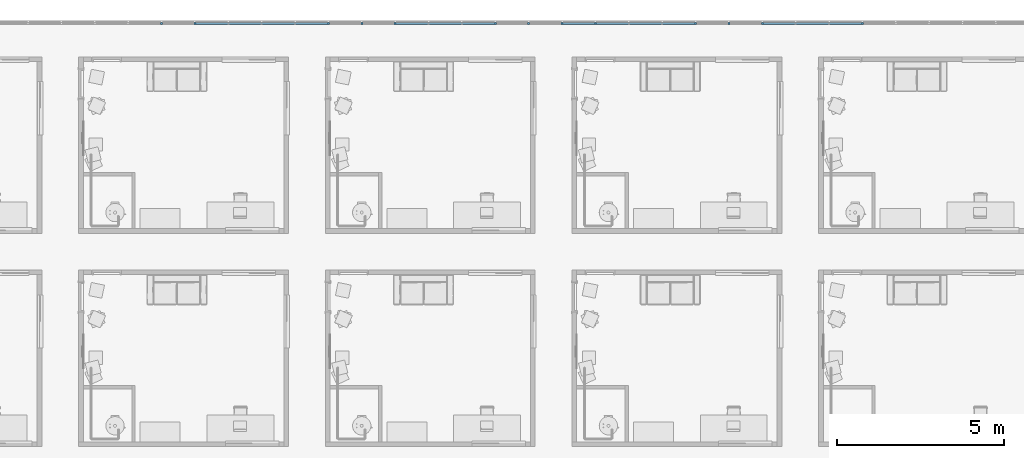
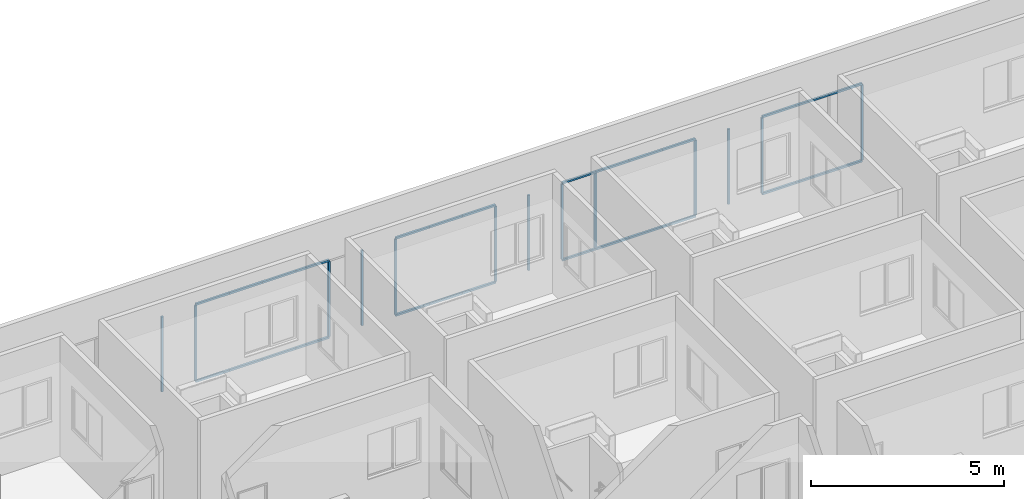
# One storey, part 3 of 72: 41 members, 1 element without a shape of its own.
"""IFC4 building model written with IfcOpenShell, lengths in centimetres."""

import ifcopenshell
import ifcopenshell.guid

model = None  # the IFC model being written
_history = None  # IfcOwnerHistory: only IFC2X3 demands one
_inside = {}  # id of a spatial element -> (the spatial element, [elements in it])
_under = {}  # id of a project, library or spatial element -> (it, [spatial elements below it])
_declared = {}  # id of a project -> (the project, [libraries it declares])
_typed = {}  # id of a type object -> (the type object, [elements of that type])
_made_of = {}  # id of a material, layer set ... -> (it, [elements and type objects made of it])


def new_model(schema):
    """Start an empty IFC model of exactly this schema.

    Asked for "IFC4X3", IfcOpenShell would pick the latest addendum, in which some entities
    have other attributes; the version numbers below select the first issue.
    IFC2X3 requires an IfcOwnerHistory on every rooted entity: one is made here for all.
    """
    global model, _history
    if schema == "IFC4X3":
        model = ifcopenshell.file(schema_version=(4, 3, 0, 0))
    else:
        model = ifcopenshell.file(schema=schema)
    _inside.clear()
    _under.clear()
    _declared.clear()
    _typed.clear()
    _made_of.clear()
    _history = None
    if model.schema == "IFC2X3":
        org = make("IfcOrganization", Name="unknown")
        user = make(
            "IfcPersonAndOrganization",
            ThePerson=make("IfcPerson", FamilyName="unknown"),
            TheOrganization=org,
        )
        app = make(
            "IfcApplication",
            ApplicationDeveloper=org,
            Version="unknown",
            ApplicationFullName="unknown",
            ApplicationIdentifier="unknown",
        )
        _history = make(
            "IfcOwnerHistory",
            OwningUser=user,
            OwningApplication=app,
            ChangeAction="ADDED",
            CreationDate=0,
        )
    return model


def make(cls, **values):
    """One entity of the class cls with the attributes given. An attribute that is None is left unset."""
    return model.create_entity(
        cls, **{name: value for name, value in values.items() if value is not None}
    )


def entity(cls, *values):
    """Any entity or typed value of the class cls, its attributes in the order of the schema. None: left unset."""
    e = model.create_entity(cls)
    for i, value in enumerate(values):
        if value is not None:
            e[i] = value
    return e


def rooted(cls, **values):
    """An entity with a GlobalId (a new one), such as an element, a storey or a relation."""
    return make(cls, GlobalId=ifcopenshell.guid.new(), OwnerHistory=_history, **values)


def si_unit(unit_type, name, prefix=None):
    """IfcSIUnit, for example si_unit("LENGTHUNIT", "METRE", prefix="MILLI")."""
    return make("IfcSIUnit", UnitType=unit_type, Prefix=prefix, Name=name)


def converted_unit(unit_type, name, factor, base, dimensions=None, offset=None):
    """IfcConversionBasedUnit, such as the inch: factor (a typed value) times the base unit."""
    return make(
        "IfcConversionBasedUnit"
        if offset is None
        else "IfcConversionBasedUnitWithOffset",
        ConversionOffset=offset,
        Dimensions=None
        if dimensions is None
        else entity("IfcDimensionalExponents", *dimensions),
        UnitType=unit_type,
        Name=name,
        ConversionFactor=make(
            "IfcMeasureWithUnit", ValueComponent=factor, UnitComponent=base
        ),
    )


def derived_unit(unit_type, elements):
    """IfcDerivedUnit: a product of units, each with its exponent."""
    return make(
        "IfcDerivedUnit",
        Elements=[
            make("IfcDerivedUnitElement", Unit=unit, Exponent=power)
            for unit, power in elements
        ],
        UnitType=unit_type,
    )


def assignment(units):
    """IfcUnitAssignment: the units of a project."""
    return None if units is None else make("IfcUnitAssignment", Units=units)


def point(xyz):
    """IfcCartesianPoint."""
    return None if xyz is None else make("IfcCartesianPoint", Coordinates=xyz)


def direction(xyz):
    """IfcDirection."""
    return None if xyz is None else make("IfcDirection", DirectionRatios=xyz)


def frame(location, z_axis=None, x_axis=None):
    """IfcAxis2Placement3D, a coordinate frame: its origin and axes. An axis left out is left unset."""
    return make(
        "IfcAxis2Placement3D",
        Location=point(location),
        Axis=direction(z_axis),
        RefDirection=direction(x_axis),
    )


def origin():
    """The frame at (0, 0, 0) with its axes left unset."""
    return frame((0.0, 0.0, 0.0))


def place(relative_to, where):
    """IfcLocalPlacement: puts the frame where relative to a parent placement (None: the world)."""
    return make(
        "IfcLocalPlacement", PlacementRelTo=relative_to, RelativePlacement=where
    )


def context(
    kind, dimensions, precision=None, world=None, true_north=None, identifier=None
):
    """IfcGeometricRepresentationContext, for example the 3D "Model" context."""
    return make(
        "IfcGeometricRepresentationContext",
        ContextIdentifier=identifier,
        ContextType=kind,
        CoordinateSpaceDimension=dimensions,
        Precision=precision,
        WorldCoordinateSystem=world,
        TrueNorth=true_north,
    )


def subcontext(parent, identifier, kind, view, scale=None):
    """IfcGeometricRepresentationSubContext, for example "Body" below "Model"."""
    return make(
        "IfcGeometricRepresentationSubContext",
        ContextIdentifier=identifier,
        ContextType=kind,
        ParentContext=parent,
        TargetScale=scale,
        TargetView=view,
    )


def project(units=None, contexts=None):
    """IfcProject with its units and contexts."""
    return rooted(
        "IfcProject",
        Name="project",
        RepresentationContexts=contexts,
        UnitsInContext=assignment(units),
    )


def spatial(cls, under=None, at=None, **own):
    """A site, building, storey or space (cls), placed at a placement, below another one or the project."""
    s = rooted(cls, ObjectPlacement=at, **own)
    if under is not None:
        _under.setdefault(under.id(), (under, []))[1].append(s)
    return s


def point_list(points):
    """IfcCartesianPointList2D or 3D."""
    cls = (
        "IfcCartesianPointList2D" if len(points[0]) == 2 else "IfcCartesianPointList3D"
    )
    return make(cls, CoordList=points)


def indexed_curve(points, segments=None, self_intersect=None):
    """IfcIndexedPolyCurve: lines and arcs through numbered points (the first is 1)."""
    return make(
        "IfcIndexedPolyCurve",
        Points=point_list(points),
        Segments=segments,
        SelfIntersect=self_intersect,
    )


def outline(outer, holes=None, kind="AREA"):
    """IfcArbitraryClosedProfileDef: a profile drawn as a closed curve; with holes, ...WithVoids."""
    if holes is None:
        return make("IfcArbitraryClosedProfileDef", ProfileType=kind, OuterCurve=outer)
    return make(
        "IfcArbitraryProfileDefWithVoids",
        ProfileType=kind,
        OuterCurve=outer,
        InnerCurves=holes,
    )


def extrude(swept, where, along, depth):
    """IfcExtrudedAreaSolid: the profile swept, set in the frame where, extruded along a direction by depth."""
    return make(
        "IfcExtrudedAreaSolid",
        SweptArea=swept,
        Position=where,
        ExtrudedDirection=direction(along),
        Depth=depth,
    )


def shape(context_of_items, identifier, shape_type, items):
    """IfcShapeRepresentation: the items that make up one representation, for example the "Body"."""
    return make(
        "IfcShapeRepresentation",
        ContextOfItems=context_of_items,
        RepresentationIdentifier=identifier,
        RepresentationType=shape_type,
        Items=items,
    )


def source(mapping_origin, context_of_items, identifier, shape_type, items):
    """IfcRepresentationMap: a shape defined once, which mapped items show again and again."""
    return make(
        "IfcRepresentationMap",
        MappingOrigin=mapping_origin,
        MappedRepresentation=shape(context_of_items, identifier, shape_type, items),
    )


def transform(
    local_origin,
    x_axis=None,
    y_axis=None,
    z_axis=None,
    scale=None,
    scale2=None,
    scale3=None,
    uniform=True,
):
    """IfcCartesianTransformationOperator3D, or its non-uniform kind. x_axis, y_axis, z_axis: its Axis1, 2, 3."""
    if uniform:
        return make(
            "IfcCartesianTransformationOperator3D",
            Axis1=direction(x_axis),
            Axis2=direction(y_axis),
            LocalOrigin=point(local_origin),
            Scale=scale,
            Axis3=direction(z_axis),
        )
    return make(
        "IfcCartesianTransformationOperator3DnonUniform",
        Axis1=direction(x_axis),
        Axis2=direction(y_axis),
        LocalOrigin=point(local_origin),
        Scale=scale,
        Axis3=direction(z_axis),
        Scale2=scale2,
        Scale3=scale3,
    )


def mapped(mapping_source, mapping_target):
    """IfcMappedItem: shows the shape of a source again, moved by a transform."""
    return make(
        "IfcMappedItem", MappingSource=mapping_source, MappingTarget=mapping_target
    )


def material(Name=None, Category=None):
    """IfcMaterial."""
    return make("IfcMaterial", Name=Name, Category=Category)


def made_of(thing, what):
    """Note that an element or type object is made of a material, layer set ...; save() writes the relation."""
    if what is not None:
        _made_of.setdefault(what.id(), (what, []))[1].append(thing)
    return thing


def type_object(cls, material=None, **own):
    """A type object (cls), such as IfcWallType, which elements share."""
    return made_of(rooted(cls, **own), material)


def type_shapes(of_type, sources):
    """Give a type object the sources (RepresentationMaps) that its elements show as mapped items."""
    of_type.RepresentationMaps = sources


def element(
    cls,
    number,
    at=None,
    inside=None,
    cuts=None,
    type_object=None,
    material=None,
    context=None,
    identifier="Body",
    shape_type=None,
    held_by="IfcProductDefinitionShape",
    body=None,
    shapes=None,
    **own,
):
    """One element of the class cls, such as IfcWall. Its Tag is "e" and its number.

    at: its placement. inside: the storey or other place that contains it. cuts: it is an
    opening in that element (IfcRelVoidsElement). A single representation is given by context,
    identifier, shape_type and body (its items); several are given by shapes. held_by: the class
    of the entity that holds the representations. save() writes the other relations.
    """
    e = rooted(cls, Tag="e%d" % number, ObjectPlacement=at, **own)
    if body is not None:
        shapes = [shape(context, identifier, shape_type, body)]
    if shapes is not None:
        e.Representation = make(held_by, Representations=shapes)
    if inside is not None:
        _inside.setdefault(inside.id(), (inside, []))[1].append(e)
    if cuts is not None:
        rooted(
            "IfcRelVoidsElement", RelatingBuildingElement=cuts, RelatedOpeningElement=e
        )
    if type_object is not None:
        _typed.setdefault(type_object.id(), (type_object, []))[1].append(e)
    return made_of(e, material)


def aggregate(whole, parts):
    """IfcRelAggregates: a whole, such as a stair, and the parts it consists of."""
    return rooted("IfcRelAggregates", RelatingObject=whole, RelatedObjects=parts)


def save(model, path):
    """Write the relations noted so far, then the file.

    IfcRelAggregates (storeys below a building ...), IfcRelContainedInSpatialStructure (elements
    in a storey), IfcRelDefinesByType, IfcRelAssociatesMaterial and IfcRelDeclares: one each for
    every whole, place, type object, material and project.
    """
    for whole, parts in _under.values():
        aggregate(whole, parts)
    for where, things in _inside.values():
        rooted(
            "IfcRelContainedInSpatialStructure",
            RelatedElements=things,
            RelatingStructure=where,
        )
    for kind, things in _typed.values():
        rooted("IfcRelDefinesByType", RelatedObjects=things, RelatingType=kind)
    for what, things in _made_of.values():
        rooted("IfcRelAssociatesMaterial", RelatedObjects=things, RelatingMaterial=what)
    for by, libraries in _declared.values():
        rooted("IfcRelDeclares", RelatingContext=by, RelatedDefinitions=libraries)
    model.write(path)


model = new_model("IFC4")

# Units and contexts
model_context = context("Model", 3, precision=0.001, world=origin(), true_north=direction((6.123233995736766e-17, 1.0)))
body_context = subcontext(model_context, "Body", "Model", "MODEL_VIEW")
ifc_project = project(units=[si_unit("LENGTHUNIT", "METRE", prefix="CENTI"), si_unit("AREAUNIT", "SQUARE_METRE"), si_unit("VOLUMEUNIT", "CUBIC_METRE"), derived_unit("THERMALTRANSMITTANCEUNIT", [(si_unit("MASSUNIT", "GRAM", prefix="KILO"), 1), (si_unit("THERMODYNAMICTEMPERATUREUNIT", "KELVIN"), -1), (si_unit("TIMEUNIT", "SECOND"), -3)]), converted_unit("PLANEANGLEUNIT", "DEGREE", entity("IfcPlaneAngleMeasure", 0.017453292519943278), si_unit("PLANEANGLEUNIT", "RADIAN"), dimensions=[0, 0, 0, 0, 0, 0, 0]), derived_unit("MASSDENSITYUNIT", [(si_unit("MASSUNIT", "GRAM", prefix="KILO"), 1), (si_unit("LENGTHUNIT", "METRE"), -3)]), derived_unit("VAPORPERMEABILITYUNIT", [(si_unit("LENGTHUNIT", "METRE"), -1), (si_unit("TIMEUNIT", "SECOND"), 1)]), derived_unit("USERDEFINED", [(si_unit("MASSUNIT", "GRAM", prefix="KILO"), 1), (si_unit("TIMEUNIT", "SECOND"), -3), (si_unit("LENGTHUNIT", "METRE"), 3), (si_unit("ELECTRICCURRENTUNIT", "AMPERE"), -2)]), derived_unit("SPECIFICHEATCAPACITYUNIT", [(si_unit("THERMODYNAMICTEMPERATUREUNIT", "KELVIN"), -1), (si_unit("LENGTHUNIT", "METRE"), 2), (si_unit("TIMEUNIT", "SECOND"), -2)]), derived_unit("THERMALCONDUCTANCEUNIT", [(si_unit("MASSUNIT", "GRAM", prefix="KILO"), 1), (si_unit("THERMODYNAMICTEMPERATUREUNIT", "KELVIN"), -1), (si_unit("TIMEUNIT", "SECOND"), -3), (si_unit("LENGTHUNIT", "METRE"), 1)]), si_unit("PRESSUREUNIT", "PASCAL"), derived_unit("MODULUSOFELASTICITYUNIT", [(si_unit("MASSUNIT", "GRAM", prefix="KILO"), 1), (si_unit("LENGTHUNIT", "METRE"), -1), (si_unit("TIMEUNIT", "SECOND"), -2)]), derived_unit("THERMALEXPANSIONCOEFFICIENTUNIT", [(si_unit("THERMODYNAMICTEMPERATUREUNIT", "KELVIN"), -1)])], contexts=[model_context])

# Site, building, storey
site_placement = place(None, origin())
site = spatial("IfcSite", under=ifc_project, at=site_placement, Name="Default", CompositionType="ELEMENT")
building_placement = place(site_placement, origin())
building = spatial("IfcBuilding", under=site, at=building_placement, Name="IDS Escape Game Building", CompositionType="ELEMENT")
storey_placement = place(building_placement, frame((0.0, 0.0, 800.0)))
storey = spatial("IfcBuildingStorey", under=building, at=storey_placement, Name="02_Second Floor", CompositionType="ELEMENT", Elevation=800.0)

# Curtain wall, members
curtain_wall_type = type_object("IfcCurtainWallType", Name="Curtain Wall:ARC_31.3_CWA_LIB_bandraam vast 100cm - profiel 60x60_gen_BERSnl", PredefinedType="NOTDEFINED")
curtain_wall_placement = place(storey_placement, frame((0.0, 0.0, -800.0)))
curtain_wall = element("IfcCurtainWall", 1, at=curtain_wall_placement, inside=storey, type_object=curtain_wall_type, Name="Curtain Wall:ARC_31.3_CWA_LIB_bandraam vast 100cm - profiel 60x60_gen_BERSnl", ObjectType="Curtain Wall:ARC_31.3_CWA_LIB_bandraam vast 100cm - profiel 60x60_gen_BERSnl", PredefinedType="NOTDEFINED")
ifc_material = material(Name="<Unnamed>")
member_type_1 = type_object("IfcMemberType", Name="Rectangular Mullion:30-_Stijl_Rechthoek_Midden_B60xD60", PredefinedType="MULLION", material=ifc_material)
shared_shape_1 = source(origin(), body_context, "Body", "SweptSolid", [
    extrude(outline(indexed_curve([(-3.0, -3.0), (3.0, -3.0), (3.0, 3.0), (-3.0, 3.0), (-3.0, -3.0)], self_intersect=False)), frame((-3.0, 3.0, -99.84313725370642), z_axis=(0.0, 0.0, 1.0), x_axis=(-1.0, 0.0, 0.0)), (0.0, 0.0, 1.0), 99.84313725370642),
])
type_shapes(member_type_1, [shared_shape_1])
member_1_placement = place(curtain_wall_placement, frame((1916.8627451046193, 3182.0, 1050.0), z_axis=(1.0, 0.0, 0.0), x_axis=(0.0, 0.0, 1.0)))
member_1 = element("IfcMember", 2, at=member_1_placement, type_object=member_type_1, material=ifc_material, Name="Rectangular Mullion:30-_Stijl_Rechthoek_Midden_B60xD60", ObjectType="Rectangular Mullion:30-_Stijl_Rechthoek_Midden_B60xD60", PredefinedType="MULLION", context=body_context, shape_type="MappedRepresentation", body=[
    mapped(shared_shape_1, transform((0.0, 0.0, 0.0), scale=1.0)),
])
member_2_placement = place(curtain_wall_placement, frame((2016.7058823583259, 3182.0, 1050.0), z_axis=(1.0, 0.0, 0.0), x_axis=(0.0, 0.0, 1.0)))
member_2 = element("IfcMember", 3, at=member_2_placement, type_object=member_type_1, material=ifc_material, Name="Rectangular Mullion:30-_Stijl_Rechthoek_Midden_B60xD60", ObjectType="Rectangular Mullion:30-_Stijl_Rechthoek_Midden_B60xD60", PredefinedType="MULLION", context=body_context, shape_type="MappedRepresentation", body=[
    mapped(shared_shape_1, transform((0.0, 0.0, 0.0), scale=1.0)),
])
member_3_placement = place(curtain_wall_placement, frame((2116.549019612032, 3182.0, 1050.0), z_axis=(1.0, 0.0, 0.0), x_axis=(0.0, 0.0, 1.0)))
member_3 = element("IfcMember", 4, at=member_3_placement, type_object=member_type_1, material=ifc_material, Name="Rectangular Mullion:30-_Stijl_Rechthoek_Midden_B60xD60", ObjectType="Rectangular Mullion:30-_Stijl_Rechthoek_Midden_B60xD60", PredefinedType="MULLION", context=body_context, shape_type="MappedRepresentation", body=[
    mapped(shared_shape_1, transform((0.0, 0.0, 0.0), scale=1.0)),
])
member_4_placement = place(curtain_wall_placement, frame((2216.392156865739, 3182.0, 1050.0), z_axis=(1.0, 0.0, 0.0), x_axis=(0.0, 0.0, 1.0)))
member_4 = element("IfcMember", 5, at=member_4_placement, type_object=member_type_1, material=ifc_material, Name="Rectangular Mullion:30-_Stijl_Rechthoek_Midden_B60xD60", ObjectType="Rectangular Mullion:30-_Stijl_Rechthoek_Midden_B60xD60", PredefinedType="MULLION", context=body_context, shape_type="MappedRepresentation", body=[
    mapped(shared_shape_1, transform((0.0, 0.0, 0.0), scale=1.0)),
])
member_5_placement = place(curtain_wall_placement, frame((2515.9215686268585, 3182.0, 1050.0), z_axis=(1.0, 0.0, 0.0), x_axis=(0.0, 0.0, 1.0)))
member_5 = element("IfcMember", 6, at=member_5_placement, type_object=member_type_1, material=ifc_material, Name="Rectangular Mullion:30-_Stijl_Rechthoek_Midden_B60xD60", ObjectType="Rectangular Mullion:30-_Stijl_Rechthoek_Midden_B60xD60", PredefinedType="MULLION", context=body_context, shape_type="MappedRepresentation", body=[
    mapped(shared_shape_1, transform((0.0, 0.0, 0.0), scale=1.0)),
])
member_6_placement = place(curtain_wall_placement, frame((2615.764705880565, 3182.0, 1050.0), z_axis=(1.0, 0.0, 0.0), x_axis=(0.0, 0.0, 1.0)))
member_6 = element("IfcMember", 7, at=member_6_placement, type_object=member_type_1, material=ifc_material, Name="Rectangular Mullion:30-_Stijl_Rechthoek_Midden_B60xD60", ObjectType="Rectangular Mullion:30-_Stijl_Rechthoek_Midden_B60xD60", PredefinedType="MULLION", context=body_context, shape_type="MappedRepresentation", body=[
    mapped(shared_shape_1, transform((0.0, 0.0, 0.0), scale=1.0)),
])
member_7_placement = place(curtain_wall_placement, frame((2715.6078431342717, 3182.0, 1050.0), z_axis=(1.0, 0.0, 0.0), x_axis=(0.0, 0.0, 1.0)))
member_7 = element("IfcMember", 8, at=member_7_placement, type_object=member_type_1, material=ifc_material, Name="Rectangular Mullion:30-_Stijl_Rechthoek_Midden_B60xD60", ObjectType="Rectangular Mullion:30-_Stijl_Rechthoek_Midden_B60xD60", PredefinedType="MULLION", context=body_context, shape_type="MappedRepresentation", body=[
    mapped(shared_shape_1, transform((0.0, 0.0, 0.0), scale=1.0)),
])
member_8_placement = place(curtain_wall_placement, frame((3015.1372548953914, 3182.0, 1050.0), z_axis=(1.0, 0.0, 0.0), x_axis=(0.0, 0.0, 1.0)))
member_8 = element("IfcMember", 9, at=member_8_placement, type_object=member_type_1, material=ifc_material, Name="Rectangular Mullion:30-_Stijl_Rechthoek_Midden_B60xD60", ObjectType="Rectangular Mullion:30-_Stijl_Rechthoek_Midden_B60xD60", PredefinedType="MULLION", context=body_context, shape_type="MappedRepresentation", body=[
    mapped(shared_shape_1, transform((0.0, 0.0, 0.0), scale=1.0)),
])
member_9_placement = place(curtain_wall_placement, frame((3114.9803921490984, 3182.0, 1050.0), z_axis=(1.0, 0.0, 0.0), x_axis=(0.0, 0.0, 1.0)))
member_9 = element("IfcMember", 10, at=member_9_placement, type_object=member_type_1, material=ifc_material, Name="Rectangular Mullion:30-_Stijl_Rechthoek_Midden_B60xD60", ObjectType="Rectangular Mullion:30-_Stijl_Rechthoek_Midden_B60xD60", PredefinedType="MULLION", context=body_context, shape_type="MappedRepresentation", body=[
    mapped(shared_shape_1, transform((0.0, 0.0, 0.0), scale=1.0)),
])
member_10_placement = place(curtain_wall_placement, frame((3214.8235294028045, 3182.0, 1050.0), z_axis=(1.0, 0.0, 0.0), x_axis=(0.0, 0.0, 1.0)))
member_10 = element("IfcMember", 11, at=member_10_placement, type_object=member_type_1, material=ifc_material, Name="Rectangular Mullion:30-_Stijl_Rechthoek_Midden_B60xD60", ObjectType="Rectangular Mullion:30-_Stijl_Rechthoek_Midden_B60xD60", PredefinedType="MULLION", context=body_context, shape_type="MappedRepresentation", body=[
    mapped(shared_shape_1, transform((0.0, 0.0, 0.0), scale=1.0)),
])
member_11_placement = place(curtain_wall_placement, frame((3314.666666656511, 3182.0, 1050.0), z_axis=(1.0, 0.0, 0.0), x_axis=(0.0, 0.0, 1.0)))
member_11 = element("IfcMember", 12, at=member_11_placement, type_object=member_type_1, material=ifc_material, Name="Rectangular Mullion:30-_Stijl_Rechthoek_Midden_B60xD60", ObjectType="Rectangular Mullion:30-_Stijl_Rechthoek_Midden_B60xD60", PredefinedType="MULLION", context=body_context, shape_type="MappedRepresentation", body=[
    mapped(shared_shape_1, transform((0.0, 0.0, 0.0), scale=1.0)),
])
member_12_placement = place(curtain_wall_placement, frame((3614.196078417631, 3182.0, 1050.0), z_axis=(1.0, 0.0, 0.0), x_axis=(0.0, 0.0, 1.0)))
member_12 = element("IfcMember", 13, at=member_12_placement, type_object=member_type_1, material=ifc_material, Name="Rectangular Mullion:30-_Stijl_Rechthoek_Midden_B60xD60", ObjectType="Rectangular Mullion:30-_Stijl_Rechthoek_Midden_B60xD60", PredefinedType="MULLION", context=body_context, shape_type="MappedRepresentation", body=[
    mapped(shared_shape_1, transform((0.0, 0.0, 0.0), scale=1.0)),
])
member_13_placement = place(curtain_wall_placement, frame((3714.0392156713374, 3182.0, 1050.0), z_axis=(1.0, 0.0, 0.0), x_axis=(0.0, 0.0, 1.0)))
member_13 = element("IfcMember", 14, at=member_13_placement, type_object=member_type_1, material=ifc_material, Name="Rectangular Mullion:30-_Stijl_Rechthoek_Midden_B60xD60", ObjectType="Rectangular Mullion:30-_Stijl_Rechthoek_Midden_B60xD60", PredefinedType="MULLION", context=body_context, shape_type="MappedRepresentation", body=[
    mapped(shared_shape_1, transform((0.0, 0.0, 0.0), scale=1.0)),
])
member_14_placement = place(curtain_wall_placement, frame((3813.882352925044, 3182.0, 1050.0), z_axis=(1.0, 0.0, 0.0), x_axis=(0.0, 0.0, 1.0)))
member_14 = element("IfcMember", 15, at=member_14_placement, type_object=member_type_1, material=ifc_material, Name="Rectangular Mullion:30-_Stijl_Rechthoek_Midden_B60xD60", ObjectType="Rectangular Mullion:30-_Stijl_Rechthoek_Midden_B60xD60", PredefinedType="MULLION", context=body_context, shape_type="MappedRepresentation", body=[
    mapped(shared_shape_1, transform((0.0, 0.0, 0.0), scale=1.0)),
])
member_type_2 = type_object("IfcMemberType", Name="Rectangular Mullion:30-_Stijl_Rechthoek_Midden_B60xD60", PredefinedType="MULLION", material=ifc_material)
shared_shape_2 = source(origin(), body_context, "Body", "SweptSolid", [
    extrude(outline(indexed_curve([(-3.0, -3.0), (3.0, -3.0), (3.0, 3.0), (-3.0, 3.0), (-3.0, -3.0)], self_intersect=False)), frame((-3.0, 3.0, -99.84313725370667), z_axis=(0.0, 0.0, 1.0), x_axis=(-1.0, 0.0, 0.0)), (0.0, 0.0, 1.0), 99.84313725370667),
])
type_shapes(member_type_2, [shared_shape_2])
member_15_placement = place(curtain_wall_placement, frame((1817.0196078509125, 3182.0, 800.0), z_axis=(-1.0, 0.0, 0.0), x_axis=(0.0, 0.0, -1.0)))
member_15 = element("IfcMember", 16, at=member_15_placement, type_object=member_type_2, material=ifc_material, Name="Rectangular Mullion:30-_Stijl_Rechthoek_Midden_B60xD60", ObjectType="Rectangular Mullion:30-_Stijl_Rechthoek_Midden_B60xD60", PredefinedType="MULLION", context=body_context, shape_type="MappedRepresentation", body=[
    mapped(shared_shape_2, transform((0.0, 0.0, 0.0), scale=1.0)),
])
member_16_placement = place(curtain_wall_placement, frame((1916.8627451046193, 3182.0, 800.0), z_axis=(-1.0, 0.0, 0.0), x_axis=(0.0, 0.0, -1.0)))
member_16 = element("IfcMember", 17, at=member_16_placement, type_object=member_type_2, material=ifc_material, Name="Rectangular Mullion:30-_Stijl_Rechthoek_Midden_B60xD60", ObjectType="Rectangular Mullion:30-_Stijl_Rechthoek_Midden_B60xD60", PredefinedType="MULLION", context=body_context, shape_type="MappedRepresentation", body=[
    mapped(shared_shape_2, transform((0.0, 0.0, 0.0), scale=1.0)),
])
member_17_placement = place(curtain_wall_placement, frame((2016.7058823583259, 3182.0, 800.0), z_axis=(-1.0, 0.0, 0.0), x_axis=(0.0, 0.0, -1.0)))
member_17 = element("IfcMember", 18, at=member_17_placement, type_object=member_type_2, material=ifc_material, Name="Rectangular Mullion:30-_Stijl_Rechthoek_Midden_B60xD60", ObjectType="Rectangular Mullion:30-_Stijl_Rechthoek_Midden_B60xD60", PredefinedType="MULLION", context=body_context, shape_type="MappedRepresentation", body=[
    mapped(shared_shape_2, transform((0.0, 0.0, 0.0), scale=1.0)),
])
member_18_placement = place(curtain_wall_placement, frame((2116.5490196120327, 3182.0, 800.0), z_axis=(-1.0, 0.0, 0.0), x_axis=(0.0, 0.0, -1.0)))
member_18 = element("IfcMember", 19, at=member_18_placement, type_object=member_type_2, material=ifc_material, Name="Rectangular Mullion:30-_Stijl_Rechthoek_Midden_B60xD60", ObjectType="Rectangular Mullion:30-_Stijl_Rechthoek_Midden_B60xD60", PredefinedType="MULLION", context=body_context, shape_type="MappedRepresentation", body=[
    mapped(shared_shape_2, transform((0.0, 0.0, 0.0), scale=1.0)),
])
member_19_placement = place(curtain_wall_placement, frame((2416.0784313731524, 3182.0, 800.0), z_axis=(-1.0, 0.0, 0.0), x_axis=(0.0, 0.0, -1.0)))
member_19 = element("IfcMember", 20, at=member_19_placement, type_object=member_type_2, material=ifc_material, Name="Rectangular Mullion:30-_Stijl_Rechthoek_Midden_B60xD60", ObjectType="Rectangular Mullion:30-_Stijl_Rechthoek_Midden_B60xD60", PredefinedType="MULLION", context=body_context, shape_type="MappedRepresentation", body=[
    mapped(shared_shape_2, transform((0.0, 0.0, 0.0), scale=1.0)),
])
member_20_placement = place(curtain_wall_placement, frame((2515.9215686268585, 3182.0, 800.0), z_axis=(-1.0, 0.0, 0.0), x_axis=(0.0, 0.0, -1.0)))
member_20 = element("IfcMember", 21, at=member_20_placement, type_object=member_type_2, material=ifc_material, Name="Rectangular Mullion:30-_Stijl_Rechthoek_Midden_B60xD60", ObjectType="Rectangular Mullion:30-_Stijl_Rechthoek_Midden_B60xD60", PredefinedType="MULLION", context=body_context, shape_type="MappedRepresentation", body=[
    mapped(shared_shape_2, transform((0.0, 0.0, 0.0), scale=1.0)),
])
member_21_placement = place(curtain_wall_placement, frame((2615.764705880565, 3182.0, 800.0), z_axis=(-1.0, 0.0, 0.0), x_axis=(0.0, 0.0, -1.0)))
member_21 = element("IfcMember", 22, at=member_21_placement, type_object=member_type_2, material=ifc_material, Name="Rectangular Mullion:30-_Stijl_Rechthoek_Midden_B60xD60", ObjectType="Rectangular Mullion:30-_Stijl_Rechthoek_Midden_B60xD60", PredefinedType="MULLION", context=body_context, shape_type="MappedRepresentation", body=[
    mapped(shared_shape_2, transform((0.0, 0.0, 0.0), scale=1.0)),
])
member_22_placement = place(curtain_wall_placement, frame((2915.294117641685, 3182.0, 800.0), z_axis=(-1.0, 0.0, 0.0), x_axis=(0.0, 0.0, -1.0)))
member_22 = element("IfcMember", 23, at=member_22_placement, type_object=member_type_2, material=ifc_material, Name="Rectangular Mullion:30-_Stijl_Rechthoek_Midden_B60xD60", ObjectType="Rectangular Mullion:30-_Stijl_Rechthoek_Midden_B60xD60", PredefinedType="MULLION", context=body_context, shape_type="MappedRepresentation", body=[
    mapped(shared_shape_2, transform((0.0, 0.0, 0.0), scale=1.0)),
])
member_23_placement = place(curtain_wall_placement, frame((3015.1372548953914, 3182.0, 800.0), z_axis=(-1.0, 0.0, 0.0), x_axis=(0.0, 0.0, -1.0)))
member_23 = element("IfcMember", 24, at=member_23_placement, type_object=member_type_2, material=ifc_material, Name="Rectangular Mullion:30-_Stijl_Rechthoek_Midden_B60xD60", ObjectType="Rectangular Mullion:30-_Stijl_Rechthoek_Midden_B60xD60", PredefinedType="MULLION", context=body_context, shape_type="MappedRepresentation", body=[
    mapped(shared_shape_2, transform((0.0, 0.0, 0.0), scale=1.0)),
])
member_24_placement = place(curtain_wall_placement, frame((3114.980392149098, 3182.0, 800.0), z_axis=(-1.0, 0.0, 0.0), x_axis=(0.0, 0.0, -1.0)))
member_24 = element("IfcMember", 25, at=member_24_placement, type_object=member_type_2, material=ifc_material, Name="Rectangular Mullion:30-_Stijl_Rechthoek_Midden_B60xD60", ObjectType="Rectangular Mullion:30-_Stijl_Rechthoek_Midden_B60xD60", PredefinedType="MULLION", context=body_context, shape_type="MappedRepresentation", body=[
    mapped(shared_shape_2, transform((0.0, 0.0, 0.0), scale=1.0)),
])
member_25_placement = place(curtain_wall_placement, frame((3214.8235294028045, 3182.0, 800.0), z_axis=(-1.0, 0.0, 0.0), x_axis=(0.0, 0.0, -1.0)))
member_25 = element("IfcMember", 26, at=member_25_placement, type_object=member_type_2, material=ifc_material, Name="Rectangular Mullion:30-_Stijl_Rechthoek_Midden_B60xD60", ObjectType="Rectangular Mullion:30-_Stijl_Rechthoek_Midden_B60xD60", PredefinedType="MULLION", context=body_context, shape_type="MappedRepresentation", body=[
    mapped(shared_shape_2, transform((0.0, 0.0, 0.0), scale=1.0)),
])
member_26_placement = place(curtain_wall_placement, frame((3514.3529411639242, 3182.0, 800.0), z_axis=(-1.0, 0.0, 0.0), x_axis=(0.0, 0.0, -1.0)))
member_26 = element("IfcMember", 27, at=member_26_placement, type_object=member_type_2, material=ifc_material, Name="Rectangular Mullion:30-_Stijl_Rechthoek_Midden_B60xD60", ObjectType="Rectangular Mullion:30-_Stijl_Rechthoek_Midden_B60xD60", PredefinedType="MULLION", context=body_context, shape_type="MappedRepresentation", body=[
    mapped(shared_shape_2, transform((0.0, 0.0, 0.0), scale=1.0)),
])
member_27_placement = place(curtain_wall_placement, frame((3614.196078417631, 3182.0, 800.0), z_axis=(-1.0, 0.0, 0.0), x_axis=(0.0, 0.0, -1.0)))
member_27 = element("IfcMember", 28, at=member_27_placement, type_object=member_type_2, material=ifc_material, Name="Rectangular Mullion:30-_Stijl_Rechthoek_Midden_B60xD60", ObjectType="Rectangular Mullion:30-_Stijl_Rechthoek_Midden_B60xD60", PredefinedType="MULLION", context=body_context, shape_type="MappedRepresentation", body=[
    mapped(shared_shape_2, transform((0.0, 0.0, 0.0), scale=1.0)),
])
member_28_placement = place(curtain_wall_placement, frame((3714.0392156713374, 3182.0, 800.0), z_axis=(-1.0, 0.0, 0.0), x_axis=(0.0, 0.0, -1.0)))
member_28 = element("IfcMember", 29, at=member_28_placement, type_object=member_type_2, material=ifc_material, Name="Rectangular Mullion:30-_Stijl_Rechthoek_Midden_B60xD60", ObjectType="Rectangular Mullion:30-_Stijl_Rechthoek_Midden_B60xD60", PredefinedType="MULLION", context=body_context, shape_type="MappedRepresentation", body=[
    mapped(shared_shape_2, transform((0.0, 0.0, 0.0), scale=1.0)),
])
member_type_3 = type_object("IfcMemberType", Name="Rectangular Mullion:30-_Stijl_Rechthoek_Midden_B60xD60", PredefinedType="MULLION", material=ifc_material)
shared_shape_3 = source(origin(), body_context, "Body", "SweptSolid", [
    extrude(outline(indexed_curve([(-3.0, -3.0), (3.0, -3.0), (3.0, 3.0), (-3.0, 3.0), (-3.0, -3.0)], self_intersect=False)), frame((0.0, 3.0, -238.0), z_axis=(0.0, 0.0, 1.0), x_axis=(-1.0, 0.0, 0.0)), (0.0, 0.0, 1.0), 238.00000000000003),
])
type_shapes(member_type_3, [shared_shape_3])
member_29_placement = place(curtain_wall_placement, frame((1717.176470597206, 3182.0, 806.0), z_axis=(0.0, 0.0, -1.0), x_axis=(1.0, 0.0, 0.0)))
member_29 = element("IfcMember", 30, at=member_29_placement, type_object=member_type_3, material=ifc_material, Name="Rectangular Mullion:30-_Stijl_Rechthoek_Midden_B60xD60", ObjectType="Rectangular Mullion:30-_Stijl_Rechthoek_Midden_B60xD60", PredefinedType="MULLION", context=body_context, shape_type="MappedRepresentation", body=[
    mapped(shared_shape_3, transform((0.0, 0.0, 0.0), scale=1.0)),
])
member_30_placement = place(curtain_wall_placement, frame((1817.0196078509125, 3182.0, 806.0), z_axis=(0.0, 0.0, -1.0), x_axis=(1.0, 0.0, 0.0)))
member_30 = element("IfcMember", 31, at=member_30_placement, type_object=member_type_3, material=ifc_material, Name="Rectangular Mullion:30-_Stijl_Rechthoek_Midden_B60xD60", ObjectType="Rectangular Mullion:30-_Stijl_Rechthoek_Midden_B60xD60", PredefinedType="MULLION", context=body_context, shape_type="MappedRepresentation", body=[
    mapped(shared_shape_3, transform((0.0, 0.0, 0.0), scale=1.0)),
])
member_31_placement = place(curtain_wall_placement, frame((2216.3921568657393, 3182.0, 806.0), z_axis=(0.0, 0.0, -1.0), x_axis=(1.0, 0.0, 0.0)))
member_31 = element("IfcMember", 32, at=member_31_placement, type_object=member_type_3, material=ifc_material, Name="Rectangular Mullion:30-_Stijl_Rechthoek_Midden_B60xD60", ObjectType="Rectangular Mullion:30-_Stijl_Rechthoek_Midden_B60xD60", PredefinedType="MULLION", context=body_context, shape_type="MappedRepresentation", body=[
    mapped(shared_shape_3, transform((0.0, 0.0, 0.0), scale=1.0)),
])
member_32_placement = place(curtain_wall_placement, frame((2316.235294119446, 3182.0, 806.0), z_axis=(0.0, 0.0, -1.0), x_axis=(1.0, 0.0, 0.0)))
member_32 = element("IfcMember", 33, at=member_32_placement, type_object=member_type_3, material=ifc_material, Name="Rectangular Mullion:30-_Stijl_Rechthoek_Midden_B60xD60", ObjectType="Rectangular Mullion:30-_Stijl_Rechthoek_Midden_B60xD60", PredefinedType="MULLION", context=body_context, shape_type="MappedRepresentation", body=[
    mapped(shared_shape_3, transform((0.0, 0.0, 0.0), scale=1.0)),
])
member_33_placement = place(curtain_wall_placement, frame((2416.0784313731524, 3182.0, 806.0), z_axis=(0.0, 0.0, -1.0), x_axis=(1.0, 0.0, 0.0)))
member_33 = element("IfcMember", 34, at=member_33_placement, type_object=member_type_3, material=ifc_material, Name="Rectangular Mullion:30-_Stijl_Rechthoek_Midden_B60xD60", ObjectType="Rectangular Mullion:30-_Stijl_Rechthoek_Midden_B60xD60", PredefinedType="MULLION", context=body_context, shape_type="MappedRepresentation", body=[
    mapped(shared_shape_3, transform((0.0, 0.0, 0.0), scale=1.0)),
])
member_34_placement = place(curtain_wall_placement, frame((2715.6078431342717, 3182.0, 806.0), z_axis=(0.0, 0.0, -1.0), x_axis=(1.0, 0.0, 0.0)))
member_34 = element("IfcMember", 35, at=member_34_placement, type_object=member_type_3, material=ifc_material, Name="Rectangular Mullion:30-_Stijl_Rechthoek_Midden_B60xD60", ObjectType="Rectangular Mullion:30-_Stijl_Rechthoek_Midden_B60xD60", PredefinedType="MULLION", context=body_context, shape_type="MappedRepresentation", body=[
    mapped(shared_shape_3, transform((0.0, 0.0, 0.0), scale=1.0)),
])
member_35_placement = place(curtain_wall_placement, frame((2815.4509803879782, 3182.0, 806.0), z_axis=(0.0, 0.0, -1.0), x_axis=(1.0, 0.0, 0.0)))
member_35 = element("IfcMember", 36, at=member_35_placement, type_object=member_type_3, material=ifc_material, Name="Rectangular Mullion:30-_Stijl_Rechthoek_Midden_B60xD60", ObjectType="Rectangular Mullion:30-_Stijl_Rechthoek_Midden_B60xD60", PredefinedType="MULLION", context=body_context, shape_type="MappedRepresentation", body=[
    mapped(shared_shape_3, transform((0.0, 0.0, 0.0), scale=1.0)),
])
member_36_placement = place(curtain_wall_placement, frame((2915.294117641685, 3182.0, 806.0), z_axis=(0.0, 0.0, -1.0), x_axis=(1.0, 0.0, 0.0)))
member_36 = element("IfcMember", 37, at=member_36_placement, type_object=member_type_3, material=ifc_material, Name="Rectangular Mullion:30-_Stijl_Rechthoek_Midden_B60xD60", ObjectType="Rectangular Mullion:30-_Stijl_Rechthoek_Midden_B60xD60", PredefinedType="MULLION", context=body_context, shape_type="MappedRepresentation", body=[
    mapped(shared_shape_3, transform((0.0, 0.0, 0.0), scale=1.0)),
])
member_37_placement = place(curtain_wall_placement, frame((3015.1372548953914, 3182.0, 806.0), z_axis=(0.0, 0.0, -1.0), x_axis=(1.0, 0.0, 0.0)))
member_37 = element("IfcMember", 38, at=member_37_placement, type_object=member_type_3, material=ifc_material, Name="Rectangular Mullion:30-_Stijl_Rechthoek_Midden_B60xD60", ObjectType="Rectangular Mullion:30-_Stijl_Rechthoek_Midden_B60xD60", PredefinedType="MULLION", context=body_context, shape_type="MappedRepresentation", body=[
    mapped(shared_shape_3, transform((0.0, 0.0, 0.0), scale=1.0)),
])
member_38_placement = place(curtain_wall_placement, frame((3314.666666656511, 3182.0, 806.0), z_axis=(0.0, 0.0, -1.0), x_axis=(1.0, 0.0, 0.0)))
member_38 = element("IfcMember", 39, at=member_38_placement, type_object=member_type_3, material=ifc_material, Name="Rectangular Mullion:30-_Stijl_Rechthoek_Midden_B60xD60", ObjectType="Rectangular Mullion:30-_Stijl_Rechthoek_Midden_B60xD60", PredefinedType="MULLION", context=body_context, shape_type="MappedRepresentation", body=[
    mapped(shared_shape_3, transform((0.0, 0.0, 0.0), scale=1.0)),
])
member_39_placement = place(curtain_wall_placement, frame((3414.5098039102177, 3182.0, 806.0), z_axis=(0.0, 0.0, -1.0), x_axis=(1.0, 0.0, 0.0)))
member_39 = element("IfcMember", 40, at=member_39_placement, type_object=member_type_3, material=ifc_material, Name="Rectangular Mullion:30-_Stijl_Rechthoek_Midden_B60xD60", ObjectType="Rectangular Mullion:30-_Stijl_Rechthoek_Midden_B60xD60", PredefinedType="MULLION", context=body_context, shape_type="MappedRepresentation", body=[
    mapped(shared_shape_3, transform((0.0, 0.0, 0.0), scale=1.0)),
])
member_40_placement = place(curtain_wall_placement, frame((3514.3529411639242, 3182.0, 806.0), z_axis=(0.0, 0.0, -1.0), x_axis=(1.0, 0.0, 0.0)))
member_40 = element("IfcMember", 41, at=member_40_placement, type_object=member_type_3, material=ifc_material, Name="Rectangular Mullion:30-_Stijl_Rechthoek_Midden_B60xD60", ObjectType="Rectangular Mullion:30-_Stijl_Rechthoek_Midden_B60xD60", PredefinedType="MULLION", context=body_context, shape_type="MappedRepresentation", body=[
    mapped(shared_shape_3, transform((0.0, 0.0, 0.0), scale=1.0)),
])
member_41_placement = place(curtain_wall_placement, frame((3813.882352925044, 3182.0, 806.0), z_axis=(0.0, 0.0, -1.0), x_axis=(1.0, 0.0, 0.0)))
member_41 = element("IfcMember", 42, at=member_41_placement, type_object=member_type_3, material=ifc_material, Name="Rectangular Mullion:30-_Stijl_Rechthoek_Midden_B60xD60", ObjectType="Rectangular Mullion:30-_Stijl_Rechthoek_Midden_B60xD60", PredefinedType="MULLION", context=body_context, shape_type="MappedRepresentation", body=[
    mapped(shared_shape_3, transform((0.0, 0.0, 0.0), scale=1.0)),
])
aggregate(curtain_wall, [member_1, member_2, member_3, member_4, member_5, member_6, member_7, member_8, member_9, member_10, member_11, member_12, member_13, member_14, member_15, member_16, member_17, member_18, member_19, member_20, member_21, member_22, member_23, member_24, member_25, member_26, member_27, member_28, member_29, member_30, member_31, member_32, member_33, member_34, member_35, member_36, member_37, member_38, member_39, member_40, member_41])

save(model, "model.ifc")
